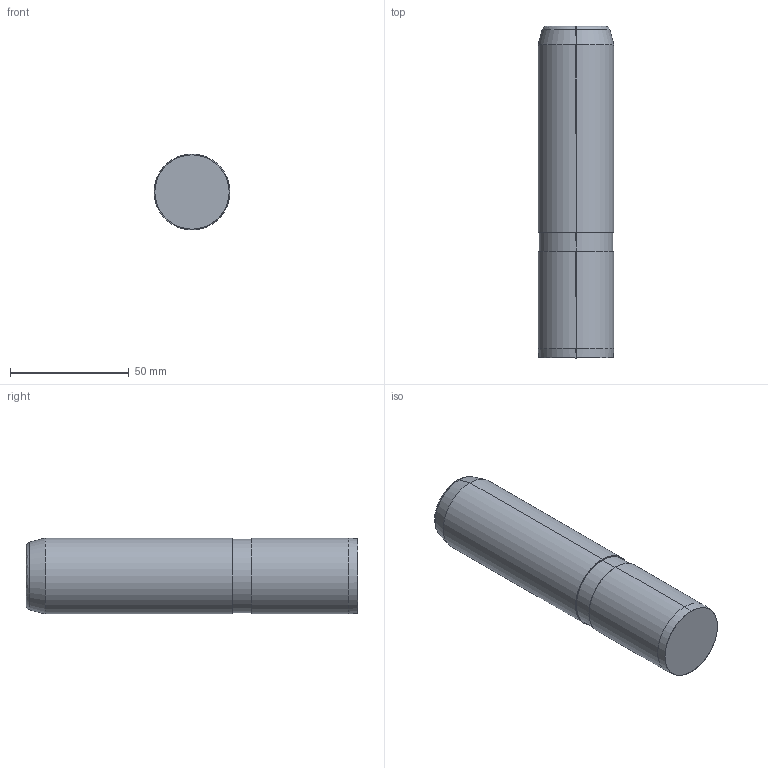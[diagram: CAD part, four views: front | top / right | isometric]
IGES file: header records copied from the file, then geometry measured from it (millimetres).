
Start section: SolidWorks IGES file using analytic representation for surfaces
Global section: file name: C:\Users\Dell\Desktop\deltakont\hatalýlar\D13.02\Ø32\D13.02_32140.igs; native system: SolidWorks 2010; preprocessor: SolidWorks 2010; author: Dell; date: 111225.193403; units: millimetre
Bounding box: 32 x 140 x 32 mm (x, y, z)
Surface area: 15450.1 mm2 (no closed solid volume)
Topology: 0 solids, 0 shells, 16 faces, 402 edges, 402 vertices
Faces by surface type: revolution 10, bspline 6
